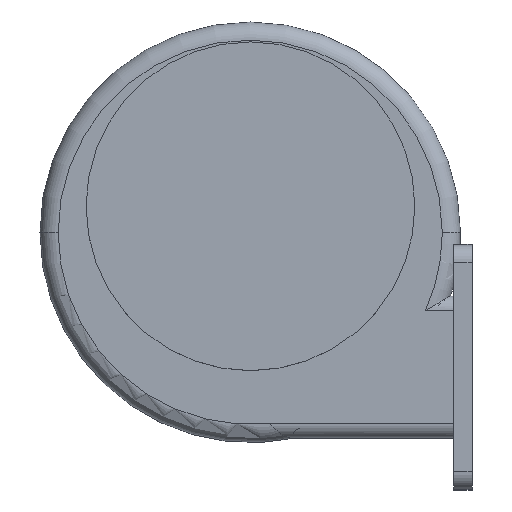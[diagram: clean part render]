
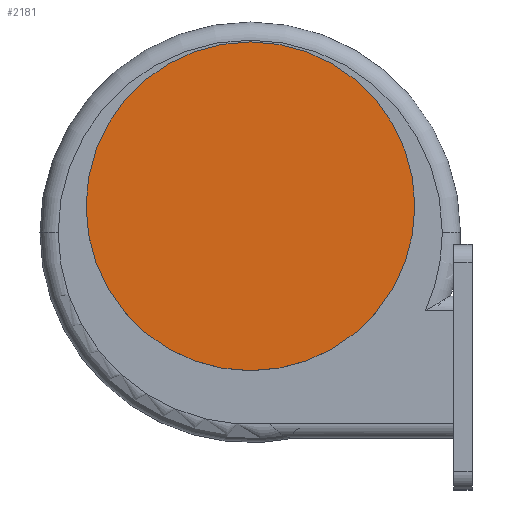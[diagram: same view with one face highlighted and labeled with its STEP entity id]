
A CAD part, top view. The second image highlights one B-rep face of the part: STEP entity #2181.
In plain terms, the highlighted planar face has unit normal (0, 0, 1).
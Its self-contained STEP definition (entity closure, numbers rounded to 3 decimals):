
#6 = CARTESIAN_POINT ( 'NONE',  ( 90.5, 0., 53. ) ) ;
#379 = CARTESIAN_POINT ( 'NONE',  ( 0., 0., 53. ) ) ;
#397 = VERTEX_POINT ( 'NONE', #6 ) ;
#557 = DIRECTION ( 'NONE',  ( 1., 0., 0. ) ) ;
#631 = CARTESIAN_POINT ( 'NONE',  ( -90.5, 0., 53. ) ) ;
#708 = EDGE_LOOP ( 'NONE', ( #2010, #2155 ) ) ;
#806 = PLANE ( 'NONE',  #1141 ) ;
#874 = CARTESIAN_POINT ( 'NONE',  ( 0., 0., 53. ) ) ;
#991 = CARTESIAN_POINT ( 'NONE',  ( 0., 0., 53. ) ) ;
#1060 = DIRECTION ( 'NONE',  ( 1., 0., 0. ) ) ;
#1141 = AXIS2_PLACEMENT_3D ( 'NONE', #991, #2165, #1177 ) ;
#1177 = DIRECTION ( 'NONE',  ( 1., 0., 0. ) ) ;
#1315 = EDGE_CURVE ( 'NONE', #397, #2232, #1344, .T. ) ;
#1344 = CIRCLE ( 'NONE', #1711, 90.5 ) ;
#1527 = EDGE_CURVE ( 'NONE', #2232, #397, #2231, .T. ) ;
#1587 = AXIS2_PLACEMENT_3D ( 'NONE', #874, #2075, #1060 ) ;
#1623 = DIRECTION ( 'NONE',  ( 0., 0., 1. ) ) ;
#1711 = AXIS2_PLACEMENT_3D ( 'NONE', #379, #1623, #557 ) ;
#2010 = ORIENTED_EDGE ( 'NONE', *, *, #1527, .T. ) ;
#2075 = DIRECTION ( 'NONE',  ( 0., 0., 1. ) ) ;
#2155 = ORIENTED_EDGE ( 'NONE', *, *, #1315, .T. ) ;
#2165 = DIRECTION ( 'NONE',  ( 0., 0., 1. ) ) ;
#2181 = ADVANCED_FACE ( 'NONE', ( #2260 ), #806, .T. ) ;
#2231 = CIRCLE ( 'NONE', #1587, 90.5 ) ;
#2232 = VERTEX_POINT ( 'NONE', #631 ) ;
#2260 = FACE_OUTER_BOUND ( 'NONE', #708, .T. ) ;
